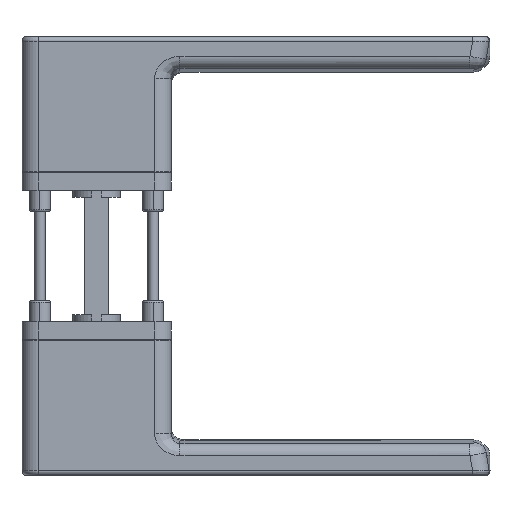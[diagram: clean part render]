
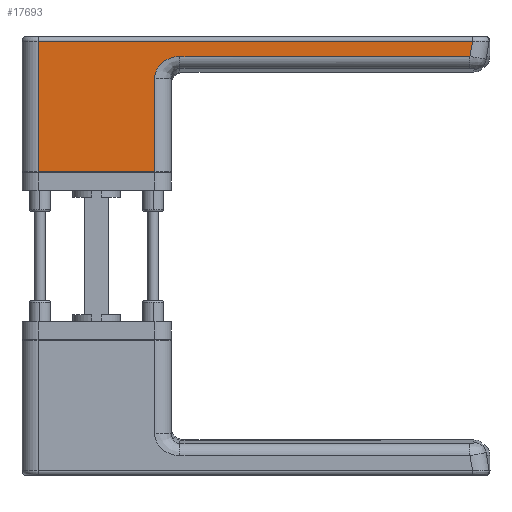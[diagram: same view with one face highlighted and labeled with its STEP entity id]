
A CAD part, front view. The second image highlights one B-rep face of the part: STEP entity #17693.
In plain terms, the highlighted planar face has unit normal (0, -1, 0).
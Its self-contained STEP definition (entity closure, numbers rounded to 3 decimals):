
#155 = CARTESIAN_POINT ( 'NONE',  ( 0.634, 372.25, -14.098 ) ) ;
#774 = EDGE_CURVE ( 'NONE', #6901, #5951, #16456, .T. ) ;
#1076 = CARTESIAN_POINT ( 'NONE',  ( 107.285, 372.25, -1.5 ) ) ;
#1137 = VERTEX_POINT ( 'NONE', #1076 ) ;
#1670 = DIRECTION ( 'NONE',  ( 0.174, 0., 0.985 ) ) ;
#1907 = CARTESIAN_POINT ( 'NONE',  ( 9.134, 372.25, -6.696 ) ) ;
#2300 = CARTESIAN_POINT ( 'NONE',  ( 4.754, 372.25, -7.667 ) ) ;
#2680 = DIRECTION ( 'NONE',  ( 1., 0., 0. ) ) ;
#2878 = CARTESIAN_POINT ( 'NONE',  ( 4.121, 372.25, -8.041 ) ) ;
#3019 = DIRECTION ( 'NONE',  ( 0., -1., 0. ) ) ;
#3287 = CARTESIAN_POINT ( 'NONE',  ( 0.634, 372.25, 1.35 ) ) ;
#3378 = VECTOR ( 'NONE', #1670, 1000. ) ;
#3729 = VECTOR ( 'NONE', #17089, 1000. ) ;
#4287 = LINE ( 'NONE', #14876, #6835 ) ;
#4353 = CARTESIAN_POINT ( 'NONE',  ( -44.566, 372.25, -45.4 ) ) ;
#4494 = FACE_OUTER_BOUND ( 'NONE', #10399, .T. ) ;
#5200 = EDGE_CURVE ( 'NONE', #17830, #16406, #12977, .T. ) ;
#5357 = CARTESIAN_POINT ( 'NONE',  ( 3.277, 372.25, -8.668 ) ) ;
#5516 = LINE ( 'NONE', #8158, #3729 ) ;
#5562 = CARTESIAN_POINT ( 'NONE',  ( 3.524, 372.25, -8.472 ) ) ;
#5951 = VERTEX_POINT ( 'NONE', #1907 ) ;
#6311 = ORIENTED_EDGE ( 'NONE', *, *, #10009, .T. ) ;
#6823 = CARTESIAN_POINT ( 'NONE',  ( 7.255, 372.25, -6.816 ) ) ;
#6835 = VECTOR ( 'NONE', #12125, 1000. ) ;
#6901 = VERTEX_POINT ( 'NONE', #155 ) ;
#6927 = CARTESIAN_POINT ( 'NONE',  ( 0.634, 372.25, -14.098 ) ) ;
#6998 = CARTESIAN_POINT ( 'NONE',  ( 106.369, 372.25, -6.696 ) ) ;
#7055 = VECTOR ( 'NONE', #2680, 1000. ) ;
#7698 = DIRECTION ( 'NONE',  ( 0., 0., 1. ) ) ;
#7761 = CARTESIAN_POINT ( 'NONE',  ( 0.634, 372.25, -45.4 ) ) ;
#8158 = CARTESIAN_POINT ( 'NONE',  ( -44.566, 372.25, -6.696 ) ) ;
#8868 = CARTESIAN_POINT ( 'NONE',  ( 8.166, 372.25, -6.696 ) ) ;
#8939 = LINE ( 'NONE', #10610, #18416 ) ;
#9010 = DIRECTION ( 'NONE',  ( 0., 0., -1. ) ) ;
#9039 = DIRECTION ( 'NONE',  ( 0., 0., -1. ) ) ;
#9660 = CARTESIAN_POINT ( 'NONE',  ( -38.366, 372.25, -45.4 ) ) ;
#9771 = ORIENTED_EDGE ( 'NONE', *, *, #5200, .T. ) ;
#10009 = EDGE_CURVE ( 'NONE', #14780, #1137, #13641, .T. ) ;
#10340 = CARTESIAN_POINT ( 'NONE',  ( 5.911, 372.25, -7.201 ) ) ;
#10392 = EDGE_CURVE ( 'NONE', #13061, #17830, #8939, .T. ) ;
#10399 = EDGE_LOOP ( 'NONE', ( #12861, #6311, #14279, #11063, #9771, #17028, #14702 ) ) ;
#10526 = CARTESIAN_POINT ( 'NONE',  ( -38.366, 372.25, -1.5 ) ) ;
#10610 = CARTESIAN_POINT ( 'NONE',  ( -38.366, 372.25, -24.5 ) ) ;
#10675 = PLANE ( 'NONE',  #18001 ) ;
#10984 = EDGE_CURVE ( 'NONE', #1137, #13061, #4287, .T. ) ;
#11063 = ORIENTED_EDGE ( 'NONE', *, *, #10392, .T. ) ;
#11540 = CARTESIAN_POINT ( 'NONE',  ( 5.441, 372.25, -7.376 ) ) ;
#12125 = DIRECTION ( 'NONE',  ( -1., 0., 0. ) ) ;
#12171 = CARTESIAN_POINT ( 'NONE',  ( 103.193, 372.25, -24.704 ) ) ;
#12861 = ORIENTED_EDGE ( 'NONE', *, *, #14190, .T. ) ;
#12977 = LINE ( 'NONE', #4353, #7055 ) ;
#13061 = VERTEX_POINT ( 'NONE', #10526 ) ;
#13375 = CARTESIAN_POINT ( 'NONE',  ( 1.409, 372.25, -10.976 ) ) ;
#13641 = LINE ( 'NONE', #12171, #3378 ) ;
#13687 = LINE ( 'NONE', #3287, #15176 ) ;
#14178 = CARTESIAN_POINT ( 'NONE',  ( 1.032, 372.25, -11.823 ) ) ;
#14190 = EDGE_CURVE ( 'NONE', #5951, #14780, #5516, .T. ) ;
#14279 = ORIENTED_EDGE ( 'NONE', *, *, #10984, .T. ) ;
#14282 = CARTESIAN_POINT ( 'NONE',  ( 2.287, 372.25, -9.609 ) ) ;
#14702 = ORIENTED_EDGE ( 'NONE', *, *, #774, .T. ) ;
#14780 = VERTEX_POINT ( 'NONE', #6998 ) ;
#14848 = CARTESIAN_POINT ( 'NONE',  ( 9.134, 372.25, -6.696 ) ) ;
#14876 = CARTESIAN_POINT ( 'NONE',  ( -44.566, 372.25, -1.5 ) ) ;
#15176 = VECTOR ( 'NONE', #7698, 1000. ) ;
#15749 = CARTESIAN_POINT ( 'NONE',  ( 1.812, 372.25, -10.266 ) ) ;
#16326 = CARTESIAN_POINT ( 'NONE',  ( 6.185, 372.25, -7.114 ) ) ;
#16406 = VERTEX_POINT ( 'NONE', #7761 ) ;
#16456 = B_SPLINE_CURVE_WITH_KNOTS ( 'NONE', 3,
 ( #6927, #18688, #18787, #14178, #17527, #13375, #15749, #14282, #18987, #5357, #5562, #2878, #2300, #11540, #10340, #16326, #6823, #8868, #14848 ),
 .UNSPECIFIED., .F., .F.,
 ( 4, 1, 2, 2, 1, 2, 2, 1, 2, 2, 4 ),
 ( 0., 0.125, 0.188, 0.25, 0.375, 0.438, 0.5, 0.625, 0.688, 0.75, 1. ),
 .UNSPECIFIED. ) ;
#16460 = CARTESIAN_POINT ( 'NONE',  ( -44.566, 372.25, 1.35 ) ) ;
#17028 = ORIENTED_EDGE ( 'NONE', *, *, #18885, .T. ) ;
#17089 = DIRECTION ( 'NONE',  ( 1., 0., 0. ) ) ;
#17527 = CARTESIAN_POINT ( 'NONE',  ( 1.259, 372.25, -11.276 ) ) ;
#17693 = ADVANCED_FACE ( 'NONE', ( #4494 ), #10675, .T. ) ;
#17830 = VERTEX_POINT ( 'NONE', #9660 ) ;
#18001 = AXIS2_PLACEMENT_3D ( 'NONE', #16460, #3019, #9010 ) ;
#18416 = VECTOR ( 'NONE', #9039, 1000. ) ;
#18688 = CARTESIAN_POINT ( 'NONE',  ( 0.634, 372.25, -13.512 ) ) ;
#18787 = CARTESIAN_POINT ( 'NONE',  ( 0.748, 372.25, -12.653 ) ) ;
#18885 = EDGE_CURVE ( 'NONE', #16406, #6901, #13687, .T. ) ;
#18987 = CARTESIAN_POINT ( 'NONE',  ( 2.867, 372.25, -9.034 ) ) ;
